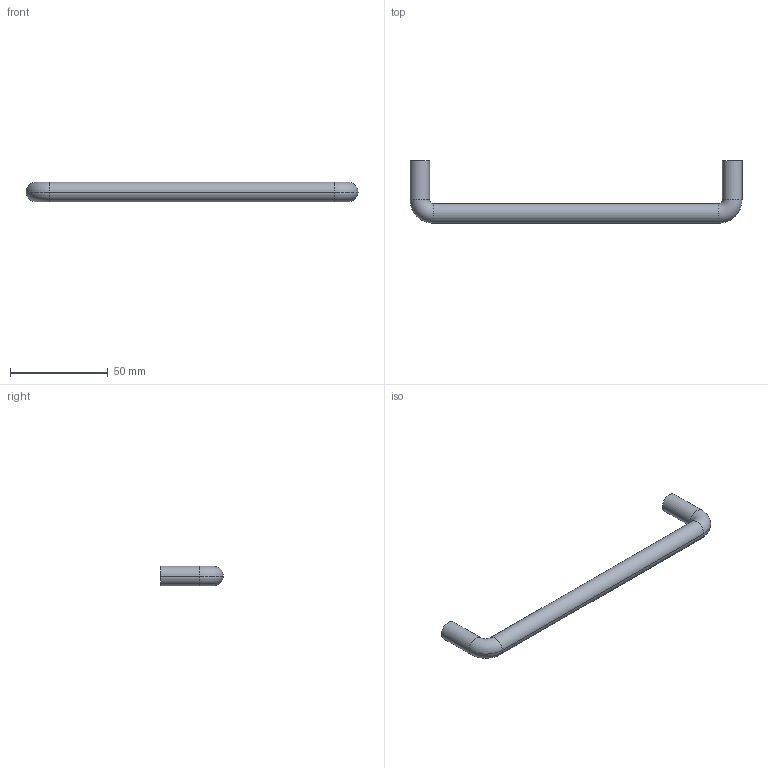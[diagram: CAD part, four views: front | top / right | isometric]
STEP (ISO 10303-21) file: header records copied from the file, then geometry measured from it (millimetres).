
FILE_DESCRIPTION( ( '' ), '1' );
FILE_NAME( 'C:/Documents and Settings/Sachin/Desktop/Sheet 10_1/stp/9070124.stp', '2013-10-22T07:25:07', ( '' ), ( '' ), ' ', ' ', ' ' );
FILE_SCHEMA( ( 'CONFIG_CONTROL_DESIGN' ) );
Length unit declared in the file: millimetre
Products named in the file (1): 1
Bounding box: 170 x 32 x 10 mm (x, y, z)
Volume: 16084.3 mm3; surface area: 6942.6 mm2
Topology: 1 solids, 1 shells, 18 faces, 34 edges, 20 vertices
Faces by surface type: cylinder 10, torus 4, plane 4
Entity records: 502 total; most frequent: DIRECTION 96, CARTESIAN_POINT 73, ORIENTED_EDGE 68, AXIS2_PLACEMENT_3D 43, EDGE_CURVE 34, CIRCLE 24, EDGE_LOOP 20, VERTEX_POINT 20
